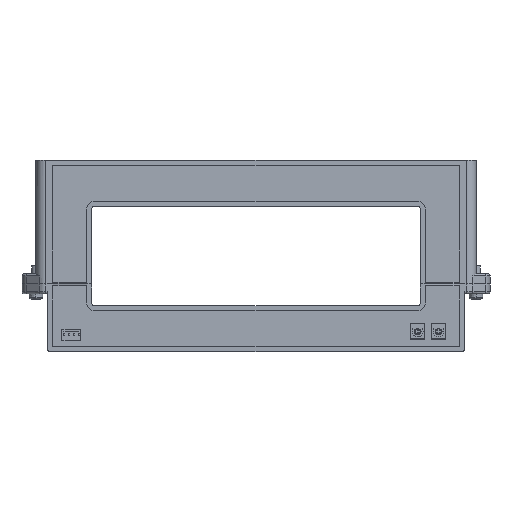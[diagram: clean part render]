
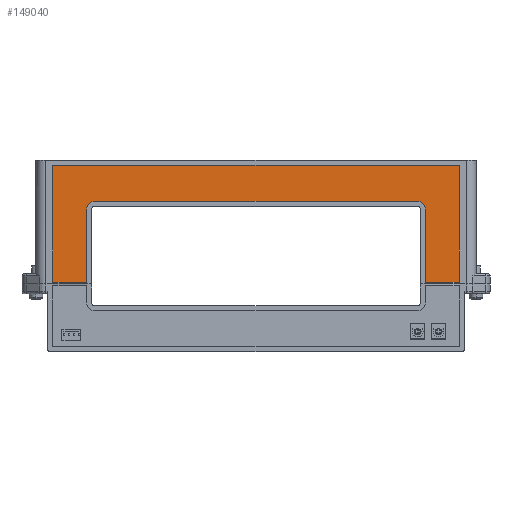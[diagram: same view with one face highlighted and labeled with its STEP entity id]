
A CAD part, top view. The second image highlights one B-rep face of the part: STEP entity #149040.
In plain terms, the highlighted planar face has unit normal (0, 0, 1).
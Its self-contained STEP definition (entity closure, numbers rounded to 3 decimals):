
#118320=CARTESIAN_POINT('',(-102.,62.,24.89));
#118330=DIRECTION('',(0.,-1.,0.));
#118340=VECTOR('',#118330,1.);
#118350=LINE('',#118320,#118340);
#118360=CARTESIAN_POINT('',(-102.,59.5,24.89));
#118370=VERTEX_POINT('',#118360);
#118380=CARTESIAN_POINT('',(-102.,0.8,24.89));
#118390=VERTEX_POINT('',#118380);
#118400=EDGE_CURVE('',#118370,#118390,#118350,.T.);
#118840=CARTESIAN_POINT('',(102.,59.5,24.89));
#118850=VERTEX_POINT('',#118840);
#118880=CARTESIAN_POINT('',(0.,59.5,24.89));
#118890=DIRECTION('',(-1.,0.,0.));
#118900=VECTOR('',#118890,1.);
#118910=LINE('',#118880,#118900);
#118920=EDGE_CURVE('',#118850,#118370,#118910,.T.);
#134370=CARTESIAN_POINT('',(-85.,0.8,24.89));
#134380=VERTEX_POINT('',#134370);
#134500=CARTESIAN_POINT('',(0.,0.8,24.89));
#134510=DIRECTION('',(-1.,0.,0.));
#134520=VECTOR('',#134510,1.);
#134530=LINE('',#134500,#134520);
#134540=EDGE_CURVE('',#134380,#118390,#134530,.T.);
#135140=CARTESIAN_POINT('',(102.,0.8,24.89));
#135150=VERTEX_POINT('',#135140);
#135300=CARTESIAN_POINT('',(85.,0.8,24.89));
#135310=VERTEX_POINT('',#135300);
#135340=CARTESIAN_POINT('',(0.,0.8,24.89));
#135350=DIRECTION('',(-1.,0.,0.));
#135360=VECTOR('',#135350,1.);
#135370=LINE('',#135340,#135360);
#135380=EDGE_CURVE('',#135150,#135310,#135370,.T.);
#142800=CARTESIAN_POINT('',(102.,62.,24.89));
#142810=DIRECTION('',(-0.,1.,0.));
#142820=VECTOR('',#142810,1.);
#142830=LINE('',#142800,#142820);
#142840=EDGE_CURVE('',#135150,#118850,#142830,.T.);
#146530=CARTESIAN_POINT('',(-81.,41.5,24.89));
#146540=VERTEX_POINT('',#146530);
#146720=CARTESIAN_POINT('',(-85.,37.5,24.89));
#146730=VERTEX_POINT('',#146720);
#146760=CARTESIAN_POINT('',(-81.,37.5,24.89));
#146770=DIRECTION('',(0.,-0.,1.));
#146780=DIRECTION('',(-1.,0.,0.));
#146790=AXIS2_PLACEMENT_3D('',#146760,#146770,#146780);
#146800=CIRCLE('',#146790,4.);
#146810=EDGE_CURVE('',#146540,#146730,#146800,.T.);
#147680=CARTESIAN_POINT('',(81.,41.5,24.89));
#147690=VERTEX_POINT('',#147680);
#147740=CARTESIAN_POINT('',(0.,41.5,24.89));
#147750=DIRECTION('',(1.,0.,0.));
#147760=VECTOR('',#147750,1.);
#147770=LINE('',#147740,#147760);
#147780=EDGE_CURVE('',#146540,#147690,#147770,.T.);
#147920=CARTESIAN_POINT('',(85.,37.5,24.89));
#147930=VERTEX_POINT('',#147920);
#147980=CARTESIAN_POINT('',(81.,37.5,24.89));
#147990=DIRECTION('',(0.,-0.,1.));
#148000=DIRECTION('',(-1.,0.,0.));
#148010=AXIS2_PLACEMENT_3D('',#147980,#147990,#148000);
#148020=CIRCLE('',#148010,4.);
#148030=EDGE_CURVE('',#147930,#147690,#148020,.T.);
#148160=CARTESIAN_POINT('',(85.,62.,24.89));
#148170=DIRECTION('',(0.,-1.,0.));
#148180=VECTOR('',#148170,1.);
#148190=LINE('',#148160,#148180);
#148200=EDGE_CURVE('',#147930,#135310,#148190,.T.);
#148300=CARTESIAN_POINT('',(-85.,62.,24.89));
#148310=DIRECTION('',(-0.,1.,0.));
#148320=VECTOR('',#148310,1.);
#148330=LINE('',#148300,#148320);
#148340=EDGE_CURVE('',#134380,#146730,#148330,.T.);
#148870=CARTESIAN_POINT('',(102.,59.5,24.89));
#148880=DIRECTION('',(0.,0.,1.));
#148890=DIRECTION('',(-1.,0.,0.));
#148900=AXIS2_PLACEMENT_3D('',#148870,#148880,#148890);
#148910=PLANE('',#148900);
#148920=ORIENTED_EDGE('',*,*,#134540,.F.);
#148930=ORIENTED_EDGE('',*,*,#118400,.T.);
#148940=ORIENTED_EDGE('',*,*,#118920,.T.);
#148950=ORIENTED_EDGE('',*,*,#142840,.T.);
#148960=ORIENTED_EDGE('',*,*,#135380,.F.);
#148970=ORIENTED_EDGE('',*,*,#148200,.T.);
#148980=ORIENTED_EDGE('',*,*,#148030,.F.);
#148990=ORIENTED_EDGE('',*,*,#147780,.T.);
#149000=ORIENTED_EDGE('',*,*,#146810,.F.);
#149010=ORIENTED_EDGE('',*,*,#148340,.T.);
#149020=EDGE_LOOP('',(#149010,#149000,#148990,#148980,#148970,#148960,
#148950,#148940,#148930,#148920));
#149030=FACE_OUTER_BOUND('',#149020,.T.);
#149040=ADVANCED_FACE('',(#149030),#148910,.T.);
